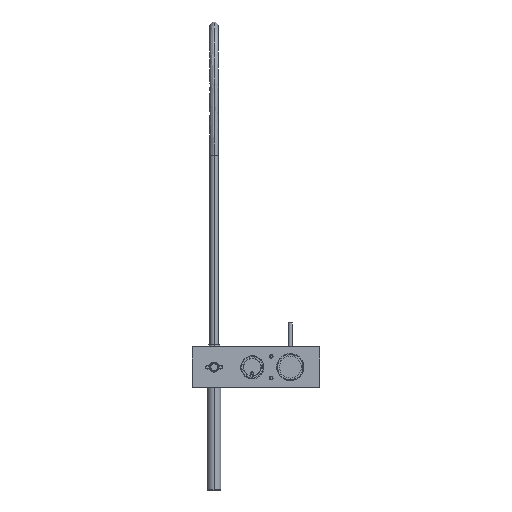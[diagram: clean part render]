
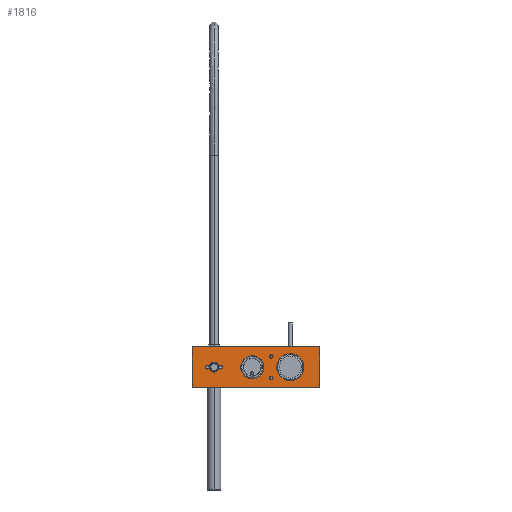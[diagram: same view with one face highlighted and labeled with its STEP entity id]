
A CAD part, front view. The second image highlights one B-rep face of the part: STEP entity #1816.
In plain terms, the highlighted planar face has unit normal (0, -1, 0).
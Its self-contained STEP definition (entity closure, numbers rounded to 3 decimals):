
#1637=DIRECTION('',(-1.,0.,0.));
#1638=VECTOR('',#1637,235.);
#1639=CARTESIAN_POINT('',(54.5,13.9,-37.5));
#1640=LINE('',#1639,#1638);
#1641=DIRECTION('',(0.,0.,1.));
#1642=VECTOR('',#1641,75.);
#1643=CARTESIAN_POINT('',(-180.5,13.9,-37.5));
#1644=LINE('',#1643,#1642);
#1645=DIRECTION('',(1.,0.,0.));
#1646=VECTOR('',#1645,235.);
#1647=CARTESIAN_POINT('',(-180.5,13.9,37.5));
#1648=LINE('',#1647,#1646);
#1649=DIRECTION('',(0.,0.,-1.));
#1650=VECTOR('',#1649,75.);
#1651=CARTESIAN_POINT('',(54.5,13.9,37.5));
#1652=LINE('',#1651,#1650);
#1761=CARTESIAN_POINT('',(54.5,13.9,-37.5));
#1762=CARTESIAN_POINT('',(-180.5,13.9,-37.5));
#1763=VERTEX_POINT('',#1761);
#1764=VERTEX_POINT('',#1762);
#1765=CARTESIAN_POINT('',(-180.5,13.9,37.5));
#1766=CARTESIAN_POINT('',(54.5,13.9,37.5));
#1767=VERTEX_POINT('',#1765);
#1768=VERTEX_POINT('',#1766);
#1801=CARTESIAN_POINT('',(-63.,13.9,0.));
#1802=DIRECTION('',(0.,1.,0.));
#1803=DIRECTION('',(0.,0.,1.));
#1804=AXIS2_PLACEMENT_3D('',#1801,#1802,#1803);
#1805=PLANE('',#1804);
#1807=ORIENTED_EDGE('',*,*,#1806,.T.);
#1809=ORIENTED_EDGE('',*,*,#1808,.T.);
#1811=ORIENTED_EDGE('',*,*,#1810,.T.);
#1813=ORIENTED_EDGE('',*,*,#1812,.T.);
#1814=EDGE_LOOP('',(#1807,#1809,#1811,#1813));
#1815=FACE_OUTER_BOUND('',#1814,.F.);
#1816=ADVANCED_FACE('',(#1815),#1805,.F.);
#1806=EDGE_CURVE('',#1763,#1764,#1640,.T.);
#1808=EDGE_CURVE('',#1764,#1767,#1644,.T.);
#1810=EDGE_CURVE('',#1767,#1768,#1648,.T.);
#1812=EDGE_CURVE('',#1768,#1763,#1652,.T.);
